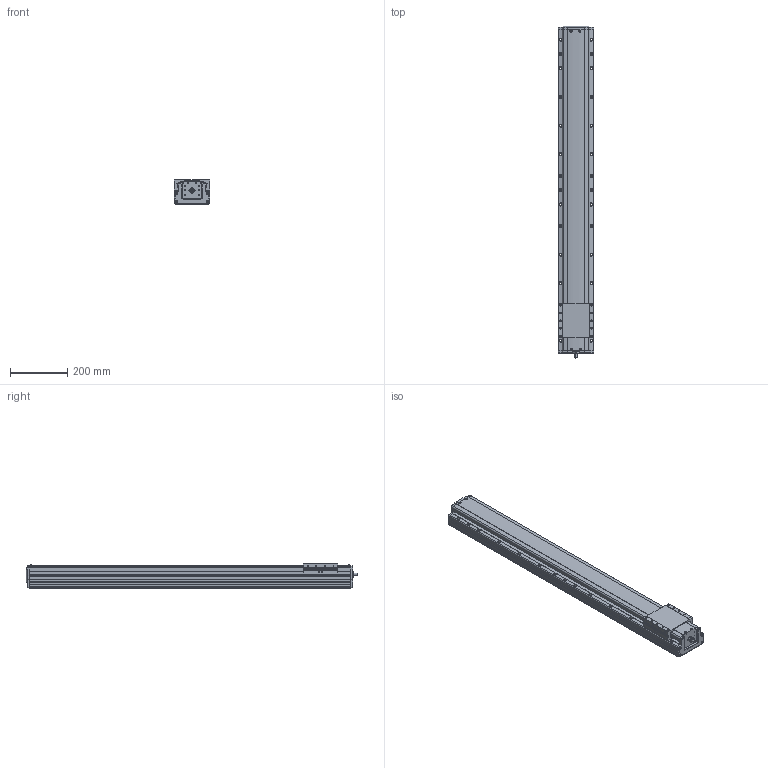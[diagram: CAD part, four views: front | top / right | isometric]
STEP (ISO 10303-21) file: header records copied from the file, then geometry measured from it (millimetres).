
FILE_DESCRIPTION(('STEP AP214'),'1');
FILE_NAME('Z:/Web/3D/PSA125/STP/PSA125-900 (3D)/PSA125ㅁㅁ-900.stp','2014-06-23T04:48:32',(' '),(' '),'Spatial InterOp 3D',' ',' ');
FILE_SCHEMA(('automotive_design'));
Length unit declared in the file: millimetre
Products named in the file (18): 스크루 : Round - M4.0 x 10.0; RRCV-PA120; SLIDE; BASE; FRCV-PA120-1(기준 뿔 제거); RR1500; 스크루 : Round - M4.0 x 6.0; 너트 : Square - M10.0 x 220.7419
Bounding box: 125 x 1158.1 x 86 mm (x, y, z)
Volume: 9470421.4 mm3; surface area: 737812.6 mm2
Topology: 18 solids, 18 shells, 1954 faces, 5281 edges, 3354 vertices
Faces by surface type: plane 1022, cylinder 624, cone 220, sphere 32, bspline 31, torus 25
Entity records: 78663 total; most frequent: CARTESIAN_POINT 13363, DIRECTION 10367, ORIENTED_EDGE 10278, EDGE_CURVE 5139, AXIS2_PLACEMENT_3D 3475, LINE 3417, VECTOR 3417, VERTEX_POINT 3354
